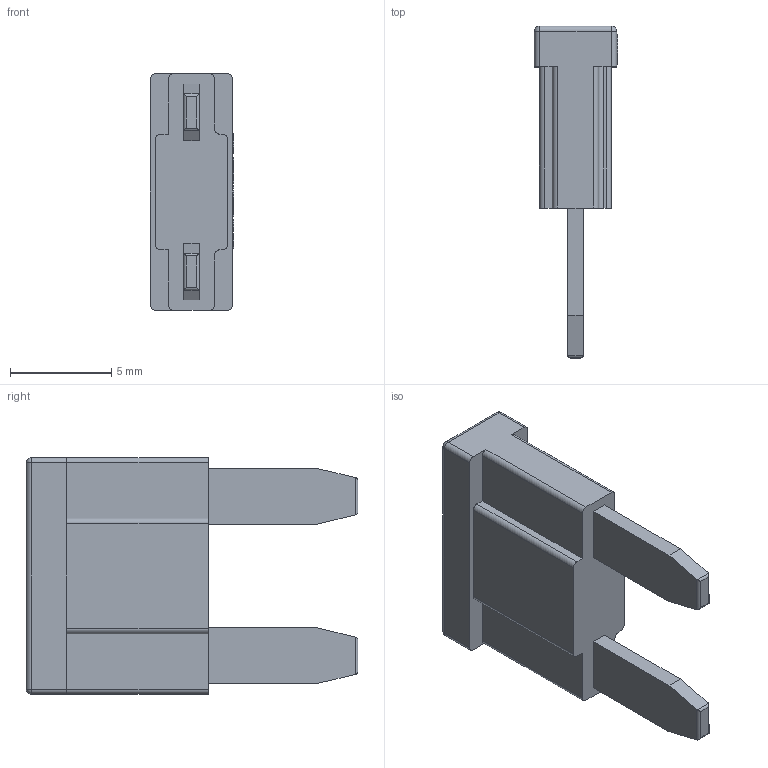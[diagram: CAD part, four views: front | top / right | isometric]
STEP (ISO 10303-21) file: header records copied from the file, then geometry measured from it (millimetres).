
FILE_DESCRIPTION(/* description */ (''),/* implementation_level */ '2;1');
FILE_NAME(/* name */ 'C:\Users\Hani\Desktop\work\ANM125-M\ANM125-M.stp',/* time_stamp */ '2021-10-31T19:26:29-07:00',/* author */ ('Hani'),/* organization */ (''),/* preprocessor_version */ 'ST-DEVELOPER v17',/* originating_system */ 'Autodesk Inventor 2019',/* authorisation */ '');
FILE_SCHEMA (('AUTOMOTIVE_DESIGN { 1 0 10303 214 3 1 1 }'));
Length unit declared in the file: inch
Products named in the file (1): ANR58-UL Auto Blade Fuse
Bounding box: 4.11 x 16.38 x 11.68 mm (x, y, z)
Volume: 362.4 mm3; surface area: 460.6 mm2
Topology: 1 solids, 1 shells, 198 faces, 534 edges, 352 vertices
Faces by surface type: plane 101, bspline 67, cylinder 26, sphere 4
Entity records: 6762 total; most frequent: CARTESIAN_POINT 2161, ORIENTED_EDGE 1068, DIRECTION 716, EDGE_CURVE 534, VERTEX_POINT 352, LINE 348, VECTOR 348, EDGE_LOOP 212
